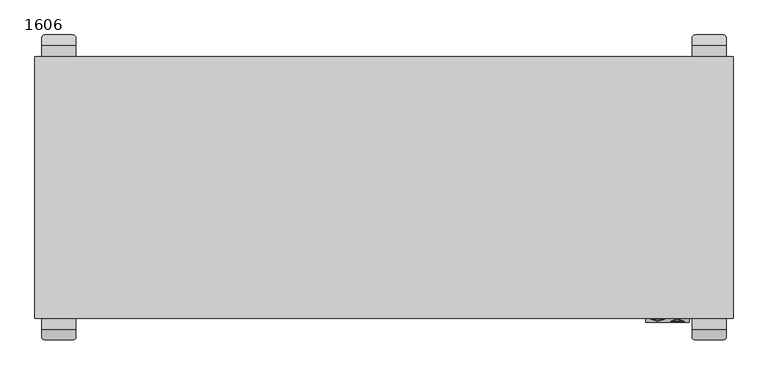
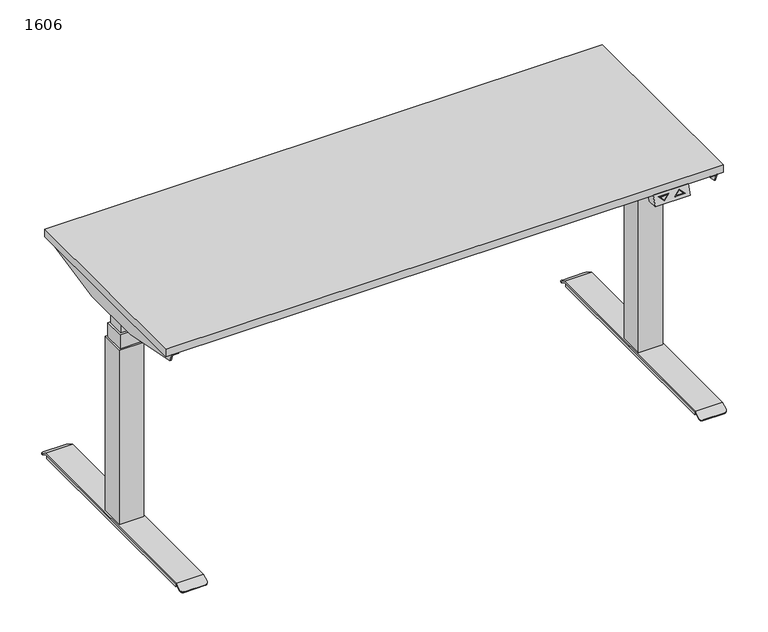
"""IFC4 building model written with IfcOpenShell, lengths in millimetres: furniture geometry, PINTA EQC : 1606."""

from ifc_helpers import new_model, si_unit, point, frame, frame_2d, origin, origin_with_axes, place, context, project, spatial, polyline, circle_curve, trimmed, segment, composite_curve, outline, extrude, faceted_brep, source, transform, mapped, element, save
from ifc_brep_helpers import plane_surface, cylinder_surface, advanced_brep


def furniture_1606_4828f2ac(model_context):
    return source(origin(), model_context, "Body", "SolidModel", [
        faceted_brep([(600.0, -610.0, 668.0), (600.0, -580.0, 668.0), (700.0, -580.0, 668.0), (700.0, -610.0, 668.0), (600.0, -600.0, 698.0), (700.0, -600.0, 698.0), (700.0, -570.0, 698.0), (600.0, -570.0, 698.0), (612.5, -602.6491106, 690.0526681), (642.5, -602.6491106, 690.0526681), (627.5, -607.3925271, 675.8224186), (687.5, -606.9174824, 677.2475529), (657.5, -606.9174824, 677.2475529), (672.5, -602.1740659, 691.4778023), (627.5, -606.4980999, 678.5057002), (637.6715729, -603.2815662, 688.1553015), (617.3284271, -603.2815662, 688.1553015), (682.6715729, -606.2850268, 679.1449195), (672.5, -603.0684931, 688.7945208), (662.3284271, -606.2850268, 679.1449195), (642.5, -601.7004273, 689.7364403), (612.5, -601.7004273, 689.7364403), (627.5, -606.4438438, 675.5061908), (637.6715729, -602.3328829, 687.8390737), (627.5, -605.5494166, 678.1894724), (617.3284271, -602.3328829, 687.8390737), (657.5, -605.9687991, 676.9313251), (687.5, -605.9687991, 676.9313251), (672.5, -601.2253826, 691.1615746), (672.5, -602.1198098, 688.478293), (682.6715729, -605.3363436, 678.8286917), (662.3284271, -605.3363436, 678.8286917)], [[[0, 1, 2, 3]], [[4, 5, 6, 7]], [[1, 0, 4, 7]], [[3, 2, 6, 5]], [[0, 3, 5, 4], [8, 9, 10], [11, 12, 13]], [[14, 15, 16]], [[17, 18, 19]], [[2, 1, 7, 6]], [[20, 21, 22], [23, 24, 25]], [[26, 27, 28], [29, 30, 31]], [[21, 20, 9, 8]], [[22, 21, 8, 10]], [[20, 22, 10, 9]], [[27, 26, 12, 11]], [[28, 27, 11, 13]], [[26, 28, 13, 12]], [[24, 23, 15, 14]], [[25, 24, 14, 16]], [[23, 25, 16, 15]], [[30, 29, 18, 17]], [[31, 30, 17, 19]], [[29, 31, 19, 18]]]),
        extrude(outline(polyline([(-780.0, -219.7732113), (780.0, -219.7733158), (780.0, -239.7733158), (-780.0, -239.7732113), (-780.0, -219.7732113)])), frame((0.0, 0.0, 658.0), z_axis=(0.0, 0.0, 1.0), x_axis=(1.0, 0.0, 0.0)), (0.0, 0.0, 1.0), 40.0),
        extrude(outline(polyline([(-780.0, -359.7732114), (780.0, -359.7733158), (780.0, -379.7733158), (-780.0, -379.7732114), (-780.0, -359.7732114)])), frame((0.0, 0.0, 658.0), z_axis=(0.0, 0.0, 1.0), x_axis=(1.0, 0.0, 0.0)), (0.0, 0.0, 1.0), 40.0),
        extrude(outline(polyline([(-800.0, -600.0), (-800.0, 0.0), (800.0, 0.0), (800.0, -600.0), (-800.0, -600.0)])), frame((0.0, 0.0, 698.0), z_axis=(0.0, 0.0, 1.0), x_axis=(1.0, 0.0, 0.0)), (0.0, 0.0, 1.0), 22.0),
        advanced_brep(
        [(706.9772339, -620.0, 6.0), (706.9772339, -620.0, 16.0), (706.9772339, 20.0, 16.0), (706.9772339, 20.0, 6.0), (783.0227661, 20.0, 16.0), (783.0227661, 20.0, 6.0), (783.0227661, -620.0, 16.0), (783.0227661, -620.0, 6.0), (706.0, 25.0, 20.0), (706.0, 43.0199519, 9.908827), (706.0, 41.0655384, 6.4188029), (706.0, 23.9562578, 16.0), (706.0, -623.9562578, 16.0), (706.0, -641.0655384, 6.4188029), (706.0, -643.0199519, 9.908827), (706.0, -625.0, 20.0), (784.0, 23.9562578, 16.0), (784.0, 41.0655384, 6.4188029), (784.0, 43.0199519, 9.908827), (784.0, 25.0, 20.0), (784.0, -625.0, 20.0), (784.0, -643.0199519, 9.908827), (784.0, -641.0655384, 6.4188029), (784.0, -623.9562578, 16.0), (714.0, -650.0, 6.0), (776.0, -650.0, 6.0), (714.0, -648.0455865, 2.5099759), (776.0, -648.0455865, 2.5099759), (714.0, 48.0455865, 2.5099759), (776.0, 48.0455865, 2.5099759), (714.0, 50.0, 6.0), (776.0, 50.0, 6.0)],
        [
            (0, 1),
            (1, 2),
            (2, 3),
            (3, 0),
            (2, 4),
            (4, 5),
            (5, 3),
            (4, 6),
            (6, 7),
            (7, 5),
            (6, 1),
            (0, 7),
            (8, 9),
            (9, 10),
            (10, 11),
            (11, 12),
            (12, 13),
            (13, 14),
            (14, 15),
            (15, 8),
            (16, 17),
            (17, 18),
            (18, 19),
            (19, 20),
            (20, 21),
            (21, 22),
            (22, 23),
            (23, 16),
            (15, 20),
            (19, 8),
            (11, 16),
            (23, 12),
            (14, 24, circle_curve(frame((714.0, -643.0199519, 9.908827), z_axis=(0.0, -0.4886033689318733, 0.8725060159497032), x_axis=(0.0, 0.8725060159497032, 0.4886033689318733)), 8.0)),
            (24, 25),
            (25, 21, circle_curve(frame((776.0, -643.0199519, 9.908827), z_axis=(0.0, -0.4886033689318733, 0.8725060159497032), x_axis=(0.0, 0.8725060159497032, 0.4886033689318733)), 8.0)),
            (24, 26),
            (26, 27),
            (27, 25),
            (22, 27, circle_curve(frame((776.0, -641.0655384, 6.4188029), z_axis=(0.0, 0.4886033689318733, -0.8725060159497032), x_axis=(0.0, 0.8725060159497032, 0.4886033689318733)), 8.0)),
            (26, 13, circle_curve(frame((714.0, -641.0655384, 6.4188029), z_axis=(0.0, 0.4886033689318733, -0.8725060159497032), x_axis=(0.0, 0.8725060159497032, 0.4886033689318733)), 8.0)),
            (10, 28, circle_curve(frame((714.0, 41.0655384, 6.4188029), z_axis=(0.0, -0.4886033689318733, -0.8725060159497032), x_axis=(0.0, -0.8725060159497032, 0.4886033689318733)), 8.0)),
            (28, 29),
            (29, 17, circle_curve(frame((776.0, 41.0655384, 6.4188029), z_axis=(0.0, -0.4886033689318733, -0.8725060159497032), x_axis=(0.0, -0.8725060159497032, 0.4886033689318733)), 8.0)),
            (28, 30),
            (30, 31),
            (31, 29),
            (18, 31, circle_curve(frame((776.0, 43.0199519, 9.908827), z_axis=(0.0, 0.4886033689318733, 0.8725060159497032), x_axis=(0.0, -0.8725060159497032, 0.4886033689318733)), 8.0)),
            (30, 9, circle_curve(frame((714.0, 43.0199519, 9.908827), z_axis=(0.0, 0.4886033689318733, 0.8725060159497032), x_axis=(0.0, -0.8725060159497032, 0.4886033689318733)), 8.0)),
        ],
        [
            plane_surface(frame((706.9772339, -620.0, 16.0), z_axis=(-1.0, 0.0, 0.0), x_axis=(0.0, 0.0, -1.0))),
            plane_surface(frame((706.9772339, 20.0, 16.0), z_axis=(0.0, 1.0, 0.0), x_axis=(0.0, 0.0, -1.0))),
            plane_surface(frame((783.0227661, 20.0, 16.0), z_axis=(1.0, 0.0, 0.0), x_axis=(0.0, 0.0, -1.0))),
            plane_surface(frame((783.0227661, -620.0, 16.0), z_axis=(0.0, -1.0, 0.0), x_axis=(0.0, 0.0, -1.0))),
            plane_surface(frame((706.9772339, -623.4188232, 6.0), z_axis=(0.0, 0.0, -1.0), x_axis=(0.0, -1.0, 0.0))),
            plane_surface(frame((706.0, -300.0, 20.0), z_axis=(-1.0, 0.0, 0.0), x_axis=(0.0, -1.0, 0.0))),
            plane_surface(frame((784.0, -300.0, 20.0), z_axis=(1.0, 0.0, 0.0), x_axis=(0.0, 1.0, 0.0))),
            plane_surface(frame((706.0, 25.0, 20.0), z_axis=(0.0, 0.0, 1.0), x_axis=(1.0, 0.0, 0.0))),
            plane_surface(frame((706.0, -623.9562578, 16.0), z_axis=(0.0, 0.0, -1.0), x_axis=(1.0, 0.0, 0.0))),
            plane_surface(frame((706.0, -625.0, 20.0), z_axis=(0.0, -0.4886033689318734, 0.8725060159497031), x_axis=(1.0, 0.0, 0.0))),
            plane_surface(frame((706.0, -650.0, 6.0), z_axis=(0.0, -0.872506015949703, -0.4886033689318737), x_axis=(1.0, 0.0, 0.0))),
            plane_surface(frame((706.0, -648.0455865, 2.5099759), z_axis=(0.0, 0.4886033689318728, -0.8725060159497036), x_axis=(1.0, 0.0, 0.0))),
            plane_surface(frame((706.0, 23.9562578, 16.0), z_axis=(0.0, -0.4886033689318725, -0.8725060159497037), x_axis=(1.0, 0.0, 0.0))),
            plane_surface(frame((706.0, 48.0455865, 2.5099759), z_axis=(0.0, 0.8725060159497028, -0.48860336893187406), x_axis=(1.0, 0.0, 0.0))),
            plane_surface(frame((706.0, 50.0, 6.0), z_axis=(0.0, 0.48860336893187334, 0.8725060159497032), x_axis=(1.0, 0.0, 0.0))),
            cylinder_surface(frame((714.0, -643.0199519, 9.908827), z_axis=(0.0, -0.4886033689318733, 0.8725060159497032), x_axis=(0.0, 0.8725060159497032, 0.4886033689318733)), 8.0),
            cylinder_surface(frame((776.0, -643.0199519, 9.908827), z_axis=(0.0, -0.4886033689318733, 0.8725060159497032), x_axis=(0.0, 0.8725060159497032, 0.4886033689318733)), 8.0),
            cylinder_surface(frame((714.0, 43.0199519, 9.908827), z_axis=(0.0, 0.4886033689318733, 0.8725060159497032), x_axis=(0.0, -0.8725060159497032, 0.4886033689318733)), 8.0),
            cylinder_surface(frame((776.0, 43.0199519, 9.908827), z_axis=(0.0, 0.4886033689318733, 0.8725060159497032), x_axis=(0.0, -0.8725060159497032, 0.4886033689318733)), 8.0),
        ],
        [
            (0, [[1, 2, 3, 4]]),
            (1, [[-3, 5, 6, 7]]),
            (2, [[-6, 8, 9, 10]]),
            (3, [[-9, 11, -1, 12]]),
            (4, [[-4, -7, -10, -12]]),
            (5, [[13, 14, 15, 16, 17, 18, 19, 20]]),
            (6, [[21, 22, 23, 24, 25, 26, 27, 28]]),
            (7, [[29, -24, 30, -20]]),
            (8, [[31, -28, 32, -16], [-11, -8, -5, -2]]),
            (9, [[-19, 33, 34, 35, -25, -29]]),
            (10, [[36, 37, 38, -34]]),
            (11, [[-27, 39, -37, 40, -17, -32]]),
            (12, [[-15, 41, 42, 43, -21, -31]]),
            (13, [[44, 45, 46, -42]]),
            (14, [[-23, 47, -45, 48, -13, -30]]),
            (15, [[-40, -36, -33, -18]]),
            (16, [[-35, -38, -39, -26]]),
            (17, [[-48, -44, -41, -14]]),
            (18, [[-43, -46, -47, -22]]),
        ],
    ),
        faceted_brep([(579.4551307, -360.0, 698.0), (762.9996948, -360.0, 698.0), (762.9996948, -600.0, 698.0), (779.4551307, -600.0, 698.0), (783.0, -600.0, 698.0), (783.0, 0.0, 698.0), (779.4551307, 0.0, 698.0), (762.9996948, 0.0, 698.0), (762.9996948, -240.0, 698.0), (579.4551307, -240.0, 698.0), (579.4551307, -360.0, 635.2327881), (579.4551307, -240.0, 635.2327881), (779.4551307, -240.0, 635.2327881), (779.4551307, -203.8252348, 635.2327881), (783.0, -203.8252348, 635.2327881), (783.0, -396.1747652, 635.2327881), (779.4551307, -396.1747652, 635.2327881), (779.4551307, -360.0, 635.2327881), (762.9996948, -240.0, 694.9093018), (779.4551307, -240.0, 694.9093018), (779.4551307, -360.0, 694.9093018), (762.9996948, -360.0, 694.9093018), (779.4551307, -600.0, 694.9093018), (762.9996948, -600.0, 694.9093018), (779.4551307, 0.0, 694.9093018), (762.9996948, 0.0, 694.9093018), (779.4551307, -1.1249222, 694.9093018), (779.4551307, -598.8750778, 694.9093018), (779.4551307, -8.5505036, 674.5076845), (779.4551307, -591.4494964, 674.5076845), (783.0, -8.5505036, 674.5076845), (783.0, -591.4494964, 674.5076845)], [[[0, 1, 2, 3, 4, 5, 6, 7, 8, 9]], [[10, 11, 12, 13, 14, 15, 16, 17]], [[9, 11, 10, 0]], [[11, 9, 8, 18, 19, 12]], [[17, 20, 21, 1, 0, 10]], [[22, 3, 2, 23]], [[24, 25, 7, 6]], [[24, 26, 19, 18, 25]], [[23, 21, 20, 27, 22]], [[2, 1, 21, 23]], [[25, 18, 8, 7]], [[13, 12, 19, 26, 28]], [[29, 27, 20, 17, 16]], [[15, 14, 30, 5, 4, 31]], [[16, 15, 31, 29]], [[22, 27, 3]], [[6, 26, 24]], [[4, 3, 27, 29, 31]], [[28, 30, 14, 13]], [[30, 28, 26, 6, 5]]]),
        extrude(outline(composite_curve([segment(trimmed(circle_curve(frame_2d((745.0, -605.0)), 25.0), [point((770.0, -605.0))], [point((720.0, -605.0))], False, "CARTESIAN"), True, "CONTINUOUS"), segment(trimmed(circle_curve(frame_2d((745.0, -605.0)), 25.0), [point((720.0, -605.0))], [point((770.0, -605.0))], False, "CARTESIAN"), True, "CONTINUOUS")], self_intersect=False)), origin_with_axes(), (0.0, 0.0, 1.0), 6.0),
        extrude(outline(composite_curve([segment(trimmed(circle_curve(frame_2d((745.0, 5.0)), 25.0), [point((770.0, 5.0))], [point((720.0, 5.0))], False, "CARTESIAN"), True, "CONTINUOUS"), segment(trimmed(circle_curve(frame_2d((745.0, 5.0)), 25.0), [point((720.0, 5.0))], [point((770.0, 5.0))], False, "CARTESIAN"), True, "CONTINUOUS")], self_intersect=False)), origin_with_axes(), (0.0, 0.0, 1.0), 6.0),
        faceted_brep([(710.0, -265.0, 550.0), (710.0, -334.9621325, 550.0), (780.0, -334.9621325, 550.0), (780.0, -265.0, 550.0), (775.0, -270.0, 550.0), (775.0, -329.9621325, 550.0), (715.0, -329.9621325, 550.0), (715.0, -270.0, 550.0), (710.0, -265.0, 20.0), (780.0, -265.0, 20.0), (780.0, -334.9621325, 20.0), (710.0, -334.9621325, 20.0), (715.0, -270.0, 592.616394), (715.0, -329.9621325, 592.616394), (775.0, -329.9621325, 592.616394), (775.0, -270.0, 592.616394), (770.0, -275.0, 592.616394), (770.0, -324.9621325, 592.616394), (720.0, -324.9621325, 592.616394), (720.0, -275.0, 592.616394), (720.0, -275.0, 635.2327881), (720.0, -324.9621325, 635.2327881), (770.0, -324.9621325, 635.2327881), (770.0, -275.0, 635.2327881)], [[[0, 1, 2, 3], [4, 5, 6, 7]], [[8, 9, 10, 11]], [[3, 9, 8, 0]], [[2, 10, 9, 3]], [[1, 11, 10, 2]], [[0, 8, 11, 1]], [[12, 13, 14, 15], [16, 17, 18, 19]], [[15, 4, 7, 12]], [[14, 5, 4, 15]], [[13, 6, 5, 14]], [[12, 7, 6, 13]], [[20, 21, 22, 23]], [[23, 16, 19, 20]], [[22, 17, 16, 23]], [[21, 18, 17, 22]], [[20, 19, 18, 21]]]),
        advanced_brep(
        [(-706.9772339, -620.0, 6.0), (-706.9772339, 20.0, 6.0), (-706.9772339, 20.0, 16.0), (-706.9772339, -620.0, 16.0), (-783.0227661, 20.0, 6.0), (-783.0227661, 20.0, 16.0), (-783.0227661, -620.0, 6.0), (-783.0227661, -620.0, 16.0), (-706.0, 25.0, 20.0), (-706.0, -625.0, 20.0), (-706.0, -643.0199519, 9.908827), (-706.0, -641.0655384, 6.4188029), (-706.0, -623.9562578, 16.0), (-706.0, 23.9562578, 16.0), (-706.0, 41.0655384, 6.4188029), (-706.0, 43.0199519, 9.908827), (-784.0, 23.9562578, 16.0), (-784.0, -623.9562578, 16.0), (-784.0, -641.0655384, 6.4188029), (-784.0, -643.0199519, 9.908827), (-784.0, -625.0, 20.0), (-784.0, 25.0, 20.0), (-784.0, 43.0199519, 9.908827), (-784.0, 41.0655384, 6.4188029), (-776.0, -650.0, 6.0), (-714.0, -650.0, 6.0), (-776.0, -648.0455865, 2.5099759), (-714.0, -648.0455865, 2.5099759), (-776.0, 48.0455865, 2.5099759), (-714.0, 48.0455865, 2.5099759), (-776.0, 50.0, 6.0), (-714.0, 50.0, 6.0)],
        [
            (0, 1),
            (1, 2),
            (2, 3),
            (3, 0),
            (1, 4),
            (4, 5),
            (5, 2),
            (4, 6),
            (6, 7),
            (7, 5),
            (6, 0),
            (3, 7),
            (8, 9),
            (9, 10),
            (10, 11),
            (11, 12),
            (12, 13),
            (13, 14),
            (14, 15),
            (15, 8),
            (16, 17),
            (17, 18),
            (18, 19),
            (19, 20),
            (20, 21),
            (21, 22),
            (22, 23),
            (23, 16),
            (8, 21),
            (20, 9),
            (12, 17),
            (16, 13),
            (19, 24, circle_curve(frame((-776.0, -643.0199519, 9.908827), z_axis=(0.0, -0.4886033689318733, 0.8725060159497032), x_axis=(0.0, 0.8725060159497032, 0.4886033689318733)), 8.0)),
            (24, 25),
            (25, 10, circle_curve(frame((-714.0, -643.0199519, 9.908827), z_axis=(0.0, -0.4886033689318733, 0.8725060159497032), x_axis=(0.0, 0.8725060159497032, 0.4886033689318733)), 8.0)),
            (24, 26),
            (26, 27),
            (27, 25),
            (11, 27, circle_curve(frame((-714.0, -641.0655384, 6.4188029), z_axis=(0.0, 0.4886033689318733, -0.8725060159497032), x_axis=(0.0, 0.8725060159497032, 0.4886033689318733)), 8.0)),
            (26, 18, circle_curve(frame((-776.0, -641.0655384, 6.4188029), z_axis=(0.0, 0.4886033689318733, -0.8725060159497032), x_axis=(0.0, 0.8725060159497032, 0.4886033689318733)), 8.0)),
            (23, 28, circle_curve(frame((-776.0, 41.0655384, 6.4188029), z_axis=(0.0, -0.4886033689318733, -0.8725060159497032), x_axis=(0.0, -0.8725060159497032, 0.4886033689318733)), 8.0)),
            (28, 29),
            (29, 14, circle_curve(frame((-714.0, 41.0655384, 6.4188029), z_axis=(0.0, -0.4886033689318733, -0.8725060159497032), x_axis=(0.0, -0.8725060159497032, 0.4886033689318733)), 8.0)),
            (28, 30),
            (30, 31),
            (31, 29),
            (15, 31, circle_curve(frame((-714.0, 43.0199519, 9.908827), z_axis=(0.0, 0.4886033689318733, 0.8725060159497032), x_axis=(0.0, -0.8725060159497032, 0.4886033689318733)), 8.0)),
            (30, 22, circle_curve(frame((-776.0, 43.0199519, 9.908827), z_axis=(0.0, 0.4886033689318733, 0.8725060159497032), x_axis=(0.0, -0.8725060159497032, 0.4886033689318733)), 8.0)),
        ],
        [
            plane_surface(frame((-706.9772339, -620.0, 16.0), z_axis=(1.0, 0.0, 0.0), x_axis=(0.0, 0.0, -1.0))),
            plane_surface(frame((-706.9772339, 20.0, 16.0), z_axis=(0.0, 1.0, 0.0), x_axis=(0.0, 0.0, -1.0))),
            plane_surface(frame((-783.0227661, 20.0, 16.0), z_axis=(-1.0, 0.0, 0.0), x_axis=(0.0, 0.0, -1.0))),
            plane_surface(frame((-783.0227661, -620.0, 16.0), z_axis=(0.0, -1.0, 0.0), x_axis=(0.0, 0.0, -1.0))),
            plane_surface(frame((-706.9772339, -623.4188232, 6.0), z_axis=(0.0, 0.0, -1.0), x_axis=(0.0, -1.0, 0.0))),
            plane_surface(frame((-706.0, -300.0, 20.0), z_axis=(1.0, 0.0, 0.0), x_axis=(0.0, -1.0, 0.0))),
            plane_surface(frame((-784.0, -300.0, 20.0), z_axis=(-1.0, 0.0, 0.0), x_axis=(0.0, 1.0, 0.0))),
            plane_surface(frame((-706.0, 25.0, 20.0), z_axis=(0.0, 0.0, 1.0), x_axis=(-1.0, 0.0, 0.0))),
            plane_surface(frame((-706.0, -623.9562578, 16.0), z_axis=(0.0, 0.0, -1.0), x_axis=(-1.0, 0.0, 0.0))),
            plane_surface(frame((-706.0, -625.0, 20.0), z_axis=(0.0, -0.4886033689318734, 0.8725060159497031), x_axis=(-1.0, 0.0, 0.0))),
            plane_surface(frame((-706.0, -650.0, 6.0), z_axis=(0.0, -0.872506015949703, -0.4886033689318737), x_axis=(-1.0, 0.0, 0.0))),
            plane_surface(frame((-706.0, -648.0455865, 2.5099759), z_axis=(0.0, 0.4886033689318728, -0.8725060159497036), x_axis=(-1.0, 0.0, 0.0))),
            plane_surface(frame((-706.0, 23.9562578, 16.0), z_axis=(0.0, -0.4886033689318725, -0.8725060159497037), x_axis=(-1.0, 0.0, 0.0))),
            plane_surface(frame((-706.0, 48.0455865, 2.5099759), z_axis=(0.0, 0.8725060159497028, -0.48860336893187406), x_axis=(-1.0, 0.0, 0.0))),
            plane_surface(frame((-706.0, 50.0, 6.0), z_axis=(0.0, 0.48860336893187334, 0.8725060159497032), x_axis=(-1.0, 0.0, 0.0))),
            cylinder_surface(frame((-714.0, -643.0199519, 9.908827), z_axis=(0.0, -0.4886033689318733, 0.8725060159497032), x_axis=(0.0, 0.8725060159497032, 0.4886033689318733)), 8.0),
            cylinder_surface(frame((-776.0, -643.0199519, 9.908827), z_axis=(0.0, -0.4886033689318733, 0.8725060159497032), x_axis=(0.0, 0.8725060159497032, 0.4886033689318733)), 8.0),
            cylinder_surface(frame((-714.0, 43.0199519, 9.908827), z_axis=(0.0, 0.4886033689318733, 0.8725060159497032), x_axis=(0.0, -0.8725060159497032, 0.4886033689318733)), 8.0),
            cylinder_surface(frame((-776.0, 43.0199519, 9.908827), z_axis=(0.0, 0.4886033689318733, 0.8725060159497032), x_axis=(0.0, -0.8725060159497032, 0.4886033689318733)), 8.0),
        ],
        [
            (0, [[1, 2, 3, 4]]),
            (1, [[5, 6, 7, -2]]),
            (2, [[8, 9, 10, -6]]),
            (3, [[11, -4, 12, -9]]),
            (4, [[-11, -8, -5, -1]]),
            (5, [[13, 14, 15, 16, 17, 18, 19, 20]]),
            (6, [[21, 22, 23, 24, 25, 26, 27, 28]]),
            (7, [[-13, 29, -25, 30]]),
            (8, [[-17, 31, -21, 32], [-3, -7, -10, -12]]),
            (9, [[-30, -24, 33, 34, 35, -14]]),
            (10, [[-34, 36, 37, 38]]),
            (11, [[-31, -16, 39, -37, 40, -22]]),
            (12, [[-32, -28, 41, 42, 43, -18]]),
            (13, [[-42, 44, 45, 46]]),
            (14, [[-29, -20, 47, -45, 48, -26]]),
            (15, [[-15, -35, -38, -39]]),
            (16, [[-23, -40, -36, -33]]),
            (17, [[-19, -43, -46, -47]]),
            (18, [[-27, -48, -44, -41]]),
        ],
    ),
        faceted_brep([(-579.4551307, -360.0, 698.0), (-579.4551307, -240.0, 698.0), (-762.9996948, -240.0, 698.0), (-762.9996948, 0.0, 698.0), (-779.4551307, 0.0, 698.0), (-783.0, 0.0, 698.0), (-783.0, -600.0, 698.0), (-779.4551307, -600.0, 698.0), (-762.9996948, -600.0, 698.0), (-762.9996948, -360.0, 698.0), (-579.4551307, -360.0, 635.2327881), (-779.4551307, -360.0, 635.2327881), (-779.4551307, -396.1747652, 635.2327881), (-783.0, -396.1747652, 635.2327881), (-783.0, -203.8252348, 635.2327881), (-779.4551307, -203.8252348, 635.2327881), (-779.4551307, -240.0, 635.2327881), (-579.4551307, -240.0, 635.2327881), (-779.4551307, -240.0, 694.9093018), (-762.9996948, -240.0, 694.9093018), (-762.9996948, -360.0, 694.9093018), (-779.4551307, -360.0, 694.9093018), (-779.4551307, -600.0, 694.9093018), (-762.9996948, -600.0, 694.9093018), (-779.4551307, 0.0, 694.9093018), (-762.9996948, 0.0, 694.9093018), (-779.4551307, -598.8750778, 694.9093018), (-779.4551307, -1.1249222, 694.9093018), (-779.4551307, -591.4494964, 674.5076845), (-779.4551307, -8.5505036, 674.5076845), (-783.0, -591.4494964, 674.5076845), (-783.0, -8.5505036, 674.5076845)], [[[0, 1, 2, 3, 4, 5, 6, 7, 8, 9]], [[10, 11, 12, 13, 14, 15, 16, 17]], [[1, 0, 10, 17]], [[17, 16, 18, 19, 2, 1]], [[11, 10, 0, 9, 20, 21]], [[22, 23, 8, 7]], [[24, 4, 3, 25]], [[23, 22, 26, 21, 20]], [[24, 25, 19, 18, 27]], [[8, 23, 20, 9]], [[25, 3, 2, 19]], [[28, 12, 11, 21, 26]], [[15, 29, 27, 18, 16]], [[13, 30, 6, 5, 31, 14]], [[12, 28, 30, 13]], [[22, 7, 26]], [[4, 24, 27]], [[6, 30, 28, 26, 7]], [[29, 15, 14, 31]], [[31, 5, 4, 27, 29]]]),
        extrude(outline(composite_curve([segment(trimmed(circle_curve(frame_2d((-745.0, -605.0)), 25.0), [point((-770.0, -605.0))], [point((-720.0, -605.0))], False, "CARTESIAN"), True, "CONTINUOUS"), segment(trimmed(circle_curve(frame_2d((-745.0, -605.0)), 25.0), [point((-720.0, -605.0))], [point((-770.0, -605.0))], False, "CARTESIAN"), True, "CONTINUOUS")], self_intersect=False)), origin_with_axes(), (0.0, 0.0, 1.0), 6.0),
        extrude(outline(composite_curve([segment(trimmed(circle_curve(frame_2d((-745.0, 5.0)), 25.0), [point((-770.0, 5.0))], [point((-720.0, 5.0))], False, "CARTESIAN"), True, "CONTINUOUS"), segment(trimmed(circle_curve(frame_2d((-745.0, 5.0)), 25.0), [point((-720.0, 5.0))], [point((-770.0, 5.0))], False, "CARTESIAN"), True, "CONTINUOUS")], self_intersect=False)), origin_with_axes(), (0.0, 0.0, 1.0), 6.0),
        faceted_brep([(-710.0, -265.0, 550.0), (-780.0, -265.0, 550.0), (-780.0, -334.9621325, 550.0), (-710.0, -334.9621325, 550.0), (-775.0, -270.0, 550.0), (-715.0, -270.0, 550.0), (-715.0, -329.9621325, 550.0), (-775.0, -329.9621325, 550.0), (-710.0, -265.0, 20.0), (-710.0, -334.9621325, 20.0), (-780.0, -334.9621325, 20.0), (-780.0, -265.0, 20.0), (-715.0, -270.0, 592.616394), (-775.0, -270.0, 592.616394), (-775.0, -329.9621325, 592.616394), (-715.0, -329.9621325, 592.616394), (-770.0, -275.0, 592.616394), (-720.0, -275.0, 592.616394), (-720.0, -324.9621325, 592.616394), (-770.0, -324.9621325, 592.616394), (-720.0, -275.0, 635.2327881), (-770.0, -275.0, 635.2327881), (-770.0, -324.9621325, 635.2327881), (-720.0, -324.9621325, 635.2327881)], [[[0, 1, 2, 3], [4, 5, 6, 7]], [[8, 9, 10, 11]], [[1, 0, 8, 11]], [[2, 1, 11, 10]], [[3, 2, 10, 9]], [[0, 3, 9, 8]], [[12, 13, 14, 15], [16, 17, 18, 19]], [[13, 12, 5, 4]], [[14, 13, 4, 7]], [[15, 14, 7, 6]], [[12, 15, 6, 5]], [[20, 21, 22, 23]], [[21, 20, 17, 16]], [[22, 21, 16, 19]], [[23, 22, 19, 18]], [[20, 23, 18, 17]]]),
    ])


if __name__ == "__main__":
    model = new_model("IFC4")
    model_context = context("Model", 3, world=origin())
    ifc_project = project(units=[si_unit("LENGTHUNIT", "METRE", prefix="MILLI")], contexts=[model_context])
    site = spatial("IfcSite", under=ifc_project)
    building = spatial("IfcBuilding", under=site)
    placement = place(None, origin())
    furniture_1606_shape = furniture_1606_4828f2ac(model_context)
    element("IfcFurniture", 1, ObjectType="PINTA EQC : 1606", at=placement, inside=building, context=model_context, shape_type="MappedRepresentation", body=[
        mapped(furniture_1606_shape, transform((0.0, 0.0, 0.0), x_axis=(1.0, 0.0, 0.0), y_axis=(0.0, 1.0, 0.0), z_axis=(0.0, 0.0, 1.0))),
    ])
    save(model, "model.ifc")
